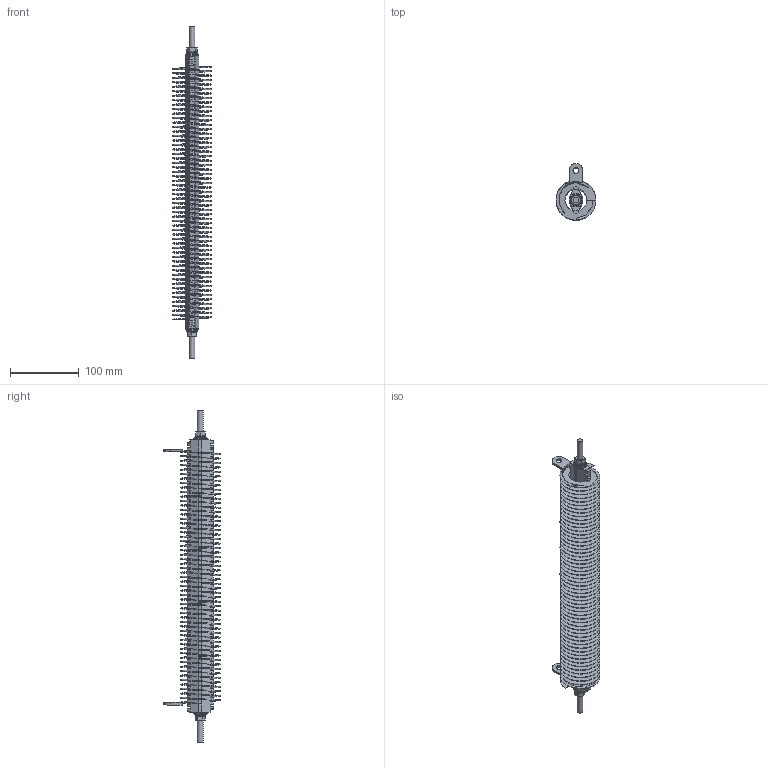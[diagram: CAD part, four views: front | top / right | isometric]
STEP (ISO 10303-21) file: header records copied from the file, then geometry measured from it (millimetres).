
FILE_DESCRIPTION(/* description */ (''),/* implementation_level */ '2;1');
FILE_NAME(/* name */ 'C:\_Vault\Dati\CATALOGO\RNT\RNT Catalogo\RNT 5.stp',/* time_stamp */ '2023-05-16T14:52:40+02:00',/* author */ ('claudio'),/* organization */ ('Fairfild Srl'),/* preprocessor_version */ 'ST-DEVELOPER v18.1',/* originating_system */ 'Autodesk Inventor 2022',/* authorisation */ '');
FILE_SCHEMA (('AUTOMOTIVE_DESIGN { 1 0 10303 214 3 1 1 }'));
Length unit declared in the file: millimetre
Products named in the file (10): RNT 5; 06M008000FZ7500000; 141000G0112M7001CH; RANELLA  ISOL. UNI SF 1630 201x10x0,50; 141000G0112M700001; 58008100208M500200; 600008000FZ9200030; 600008000FZ5100032; 28M008000FZ8800000; RNT 5_1
Assembly tree (19 placements, depth 2):
  RNT 5
    06M008000FZ7500000
    141000G0112M7001CH  x2
    58008100208M500200  x2
    600008000FZ9200030  x2
    600008000FZ5100032  x2
    28M008000FZ8800000  x2
    RANELLA  ISOL. UNI SF 1630 201x10x0,50  x4
    141000G0112M700001  x3
    RNT 5_1
Bounding box: 58 x 82.04 x 482 mm (x, y, z)
Volume: 282259.5 mm3; surface area: 299126 mm2
Topology: 19 solids, 19 shells, 844 faces, 2439 edges, 1616 vertices
Faces by surface type: cylinder 410, bspline 253, plane 153, cone 28
Full cylindrical faces by diameter (mm): 6.647 x2, 8 x1, 8.4 x2, 8.5 x4, 9 x5, 10 x4, 17 x2, 20 x2, 32 x56, 58 x56
Entity records: 27597 total; most frequent: CARTESIAN_POINT 17348, ORIENTED_EDGE 2458, DIRECTION 1331, EDGE_CURVE 1229, VERTEX_POINT 816, B_SPLINE_CURVE_WITH_KNOTS 655, LINE 461, VECTOR 461
